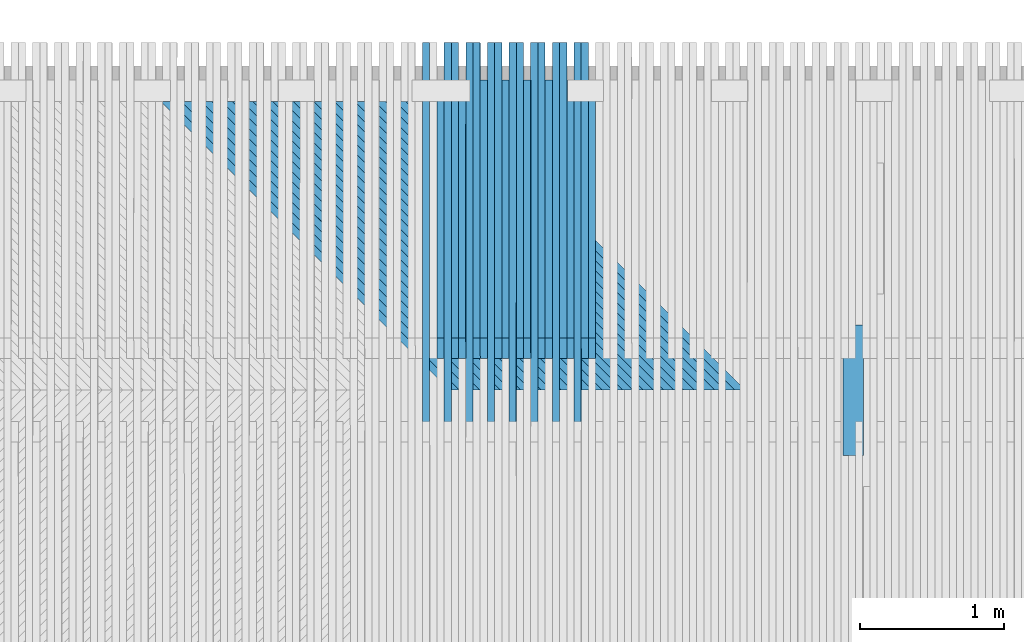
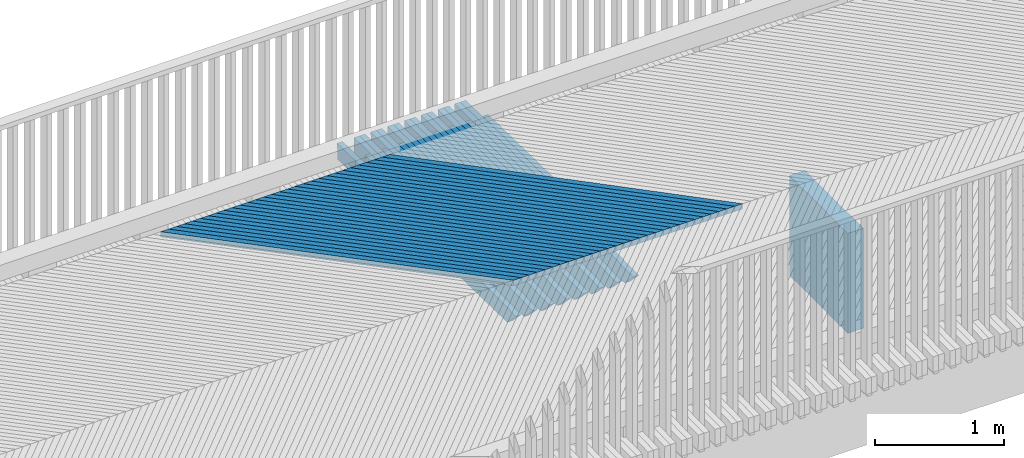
# One storey, part 26 of 47: 53 beams.
"""IFC2X3 building model written with IfcOpenShell, lengths in millimetres."""

from ifc_helpers import new_model, si_unit, frame, origin_with_axes, place, context, subcontext, project, spatial, faceted_brep, material, type_object, element, save


model = new_model("IFC2X3")

# Units and contexts
model_context = context("Model", 3, precision=1e-05, world=origin_with_axes())
body_context = subcontext(model_context, "Body", "Model", "MODEL_VIEW")
ifc_project = project(units=[si_unit("LENGTHUNIT", "METRE", prefix="MILLI"), si_unit("AREAUNIT", "SQUARE_METRE"), si_unit("VOLUMEUNIT", "CUBIC_METRE"), si_unit("MASSUNIT", "GRAM", prefix="KILO"), si_unit("TIMEUNIT", "SECOND"), si_unit("PLANEANGLEUNIT", "RADIAN"), si_unit("SOLIDANGLEUNIT", "STERADIAN"), si_unit("THERMODYNAMICTEMPERATUREUNIT", "DEGREE_CELSIUS"), si_unit("LUMINOUSINTENSITYUNIT", "LUMEN")], contexts=[model_context])

# Site, building, storey
site_placement = place(None, origin_with_axes())
site = spatial("IfcSite", under=ifc_project, at=site_placement, Name="Undefined", CompositionType="ELEMENT")
building_placement = place(site_placement, origin_with_axes())
building = spatial("IfcBuilding", under=site, at=building_placement, Name="Undefined", CompositionType="ELEMENT")
storey_placement = place(building_placement, origin_with_axes())
storey = spatial("IfcBuildingStorey", under=building, at=storey_placement, Name="Undefined", CompositionType="ELEMENT", Elevation=0.0)

# Beams
ifc_material = material(Name="TIMBER/Timber_Undefined")
beam_type_1 = type_object("IfcBeamType", Name="150*50", PredefinedType="NOTDEFINED")
beam_1_placement = place(storey_placement, frame((4899.36534565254, 64771.443807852, 3080.00459767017), z_axis=(-0.00523020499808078, 0.0199960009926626, 0.999786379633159), x_axis=(-0.000104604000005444, -0.999800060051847, 0.0199957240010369)))
element("IfcBeam", 1, at=beam_1_placement, inside=storey, type_object=beam_type_1, material=ifc_material, Name="BEAM", ObjectType="150*50", context=body_context, shape_type="Brep", body=[
    faceted_brep([(6.18456397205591e-09, -24.9999999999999, -75.0000000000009), (6.18456397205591e-09, 24.9999999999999, -75.0), (2633.00494983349, 25.0000000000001, -75.0000000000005), (2633.00495050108, -24.9999999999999, -75.0000000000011), (-6.1918399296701e-09, -24.9999999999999, 74.9999999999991), (-6.19911588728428e-09, 25.0, 75.0), (2408.42506497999, 24.9999999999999, 75.0), (2768.5924870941, 25.0, 60.5875375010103), (2768.59248707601, -25.0, 60.5875366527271), (2408.4250638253, -25.0, 74.9999999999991)], [[[0, 1, 2, 3]], [[0, 4, 5, 1]], [[2, 1, 5, 6, 7]], [[3, 2, 7, 8]], [[4, 0, 3, 8, 9]], [[5, 4, 9, 6]], [[8, 7, 6, 9]]]),
])
beam_2_placement = place(storey_placement, frame((5099.43105651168, 64771.4438078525, 3081.00054883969), z_axis=(-0.00481490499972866, 0.0199960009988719, 0.99978846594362), x_axis=(-9.62979999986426e-05, -0.999800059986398, 0.019995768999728)))
element("IfcBeam", 2, at=beam_2_placement, inside=storey, type_object=beam_type_1, material=ifc_material, Name="BEAM", ObjectType="150*50", context=body_context, shape_type="Brep", body=[
    faceted_brep([(6.18456397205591e-09, -24.9999999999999, -75.0000000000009), (-6.1918399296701e-09, -24.9999999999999, 74.9999999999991), (-6.19911588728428e-09, 25.0, 75.0), (6.18456397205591e-09, 24.9999999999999, -75.0), (2186.42645864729, 25.0, -75.0), (2186.42645915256, -25.0000000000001, -75.0), (2047.96936034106, -25.0000000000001, 75.0), (2047.96935975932, 25.0, 75.0)], [[[0, 1, 2, 3]], [[0, 3, 4, 5]], [[1, 0, 5, 6]], [[2, 1, 6, 7]], [[3, 2, 7, 4]], [[6, 5, 4, 7]]]),
])
beam_3_placement = place(storey_placement, frame((4999.38737962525, 64513.4953923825, 3085.66919807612), z_axis=(-0.00498102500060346, 0.0199960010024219, 0.999787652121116), x_axis=(-9.9620000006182e-05, -0.999800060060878, 0.0199957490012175)))
element("IfcBeam", 3, at=beam_3_placement, inside=storey, type_object=beam_type_1, material=ifc_material, Name="BEAM", ObjectType="150*50", context=body_context, shape_type="Brep", body=[
    faceted_brep([(6.18456397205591e-09, -24.9999999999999, -75.0000000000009), (-6.1918399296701e-09, -24.9999999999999, 74.9999999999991), (-6.19911588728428e-09, 25.0, 75.0), (6.18456397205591e-09, 24.9999999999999, -75.0), (1928.42646506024, 25.0, -75.0), (1928.4264649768, -24.9999999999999, -75.0), (1789.96936577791, -24.9999999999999, 75.0), (1789.96936586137, 25.0, 75.0000000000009)], [[[0, 1, 2, 3]], [[0, 3, 4, 5]], [[1, 0, 5, 6]], [[2, 1, 6, 7]], [[3, 2, 7, 4]], [[6, 5, 4, 7]]]),
])
beam_4_placement = place(storey_placement, frame((5049.39221490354, 64771.443807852, 3080.7586823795), z_axis=(-0.00498102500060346, 0.0199960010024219, 0.999787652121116), x_axis=(-9.9620000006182e-05, -0.999800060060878, 0.0199957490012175)))
element("IfcBeam", 4, at=beam_4_placement, inside=storey, type_object=beam_type_1, material=ifc_material, Name="BEAM", ObjectType="150*50", context=body_context, shape_type="Brep", body=[
    faceted_brep([(6.18456397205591e-09, -24.9999999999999, -75.0000000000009), (6.18456397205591e-09, 24.9999999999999, -75.0), (2633.00494983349, 25.0000000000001, -75.0000000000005), (2633.00495050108, -24.9999999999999, -75.0000000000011), (-6.1918399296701e-09, -24.9999999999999, 74.9999999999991), (-6.19911588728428e-09, 25.0, 75.0), (2408.42506497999, 24.9999999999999, 75.0), (2768.5924870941, 25.0, 60.5875375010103), (2768.59248707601, -25.0, 60.5875366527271), (2408.4250638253, -25.0, 74.9999999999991)], [[[0, 1, 2, 3]], [[0, 4, 5, 1]], [[2, 1, 5, 6, 7]], [[3, 2, 7, 8]], [[4, 0, 3, 8, 9]], [[5, 4, 9, 6]], [[8, 7, 6, 9]]]),
])
beam_5_placement = place(storey_placement, frame((5249.45816777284, 64771.4438078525, 3081.70477053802), z_axis=(-0.00456572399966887, 0.0199960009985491, 0.999789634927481), x_axis=(-9.1314999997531e-05, -0.999800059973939, 0.0199957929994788)))
element("IfcBeam", 5, at=beam_5_placement, inside=storey, type_object=beam_type_1, material=ifc_material, Name="BEAM", ObjectType="150*50", context=body_context, shape_type="Brep", body=[
    faceted_brep([(6.18456397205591e-09, -24.9999999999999, -75.0000000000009), (-6.1918399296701e-09, -24.9999999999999, 74.9999999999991), (-6.19911588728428e-09, 25.0, 75.0), (6.18456397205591e-09, 24.9999999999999, -75.0), (2186.42645864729, 25.0, -75.0), (2186.42645915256, -25.0000000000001, -75.0), (2047.96936034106, -25.0000000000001, 75.0), (2047.96935975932, 25.0, 75.0)], [[[0, 1, 2, 3]], [[0, 3, 4, 5]], [[1, 0, 5, 6]], [[2, 1, 6, 7]], [[3, 2, 7, 4]], [[6, 5, 4, 7]]]),
])
beam_6_placement = place(storey_placement, frame((5149.41565757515, 64513.4953923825, 3086.39835381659), z_axis=(-0.00473184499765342, 0.0199960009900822, 0.99978886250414), x_axis=(-9.46370000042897e-05, -0.999800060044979, 0.0199957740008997)))
element("IfcBeam", 6, at=beam_6_placement, inside=storey, type_object=beam_type_1, material=ifc_material, Name="BEAM", ObjectType="150*50", context=body_context, shape_type="Brep", body=[
    faceted_brep([(6.18456397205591e-09, -24.9999999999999, -75.0000000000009), (-6.1918399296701e-09, -24.9999999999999, 74.9999999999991), (-6.19911588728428e-09, 25.0, 75.0), (6.18456397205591e-09, 24.9999999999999, -75.0), (1928.42646506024, 25.0, -75.0), (1928.4264649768, -24.9999999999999, -75.0), (1789.96936577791, -24.9999999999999, 75.0), (1789.96936586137, 25.0, 75.0000000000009)], [[[0, 1, 2, 3]], [[0, 3, 4, 5]], [[1, 0, 5, 6]], [[2, 1, 6, 7]], [[3, 2, 7, 4]], [[6, 5, 4, 7]]]),
])
beam_7_placement = place(storey_placement, frame((5199.41926743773, 64771.443807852, 3081.47537541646), z_axis=(-0.00473184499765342, 0.0199960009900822, 0.99978886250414), x_axis=(-9.46370000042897e-05, -0.999800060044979, 0.0199957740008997)))
element("IfcBeam", 7, at=beam_7_placement, inside=storey, type_object=beam_type_1, material=ifc_material, Name="BEAM", ObjectType="150*50", context=body_context, shape_type="Brep", body=[
    faceted_brep([(6.18456397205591e-09, -24.9999999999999, -75.0000000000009), (6.18456397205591e-09, 24.9999999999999, -75.0), (2633.00494983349, 25.0000000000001, -75.0000000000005), (2633.00495050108, -24.9999999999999, -75.0000000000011), (-6.1918399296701e-09, -24.9999999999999, 74.9999999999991), (-6.19911588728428e-09, 25.0, 75.0), (2408.42506497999, 24.9999999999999, 75.0), (2768.5924870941, 25.0, 60.5875375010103), (2768.59248707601, -25.0, 60.5875366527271), (2408.4250638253, -25.0, 74.9999999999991)], [[[0, 1, 2, 3]], [[0, 4, 5, 1]], [[2, 1, 5, 6, 7]], [[3, 2, 7, 8]], [[4, 0, 3, 8, 9]], [[5, 4, 9, 6]], [[8, 7, 6, 9]]]),
])
beam_8_placement = place(storey_placement, frame((5399.48544988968, 64771.4438078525, 3082.37160050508), z_axis=(-0.0043165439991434, 0.0199960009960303, 0.999790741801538), x_axis=(-8.63309999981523e-05, -0.999800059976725, 0.0199958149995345)))
element("IfcBeam", 8, at=beam_8_placement, inside=storey, type_object=beam_type_1, material=ifc_material, Name="BEAM", ObjectType="150*50", context=body_context, shape_type="Brep", body=[
    faceted_brep([(6.18456397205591e-09, -24.9999999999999, -75.0000000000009), (-6.1918399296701e-09, -24.9999999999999, 74.9999999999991), (-6.19911588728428e-09, 25.0, 75.0), (6.18456397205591e-09, 24.9999999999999, -75.0), (2186.42645864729, 25.0, -75.0), (2186.42645915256, -25.0000000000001, -75.0), (2047.96936034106, -25.0000000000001, 75.0), (2047.96935975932, 25.0, 75.0)], [[[0, 1, 2, 3]], [[0, 3, 4, 5]], [[1, 0, 5, 6]], [[2, 1, 6, 7]], [[3, 2, 7, 4]], [[6, 5, 4, 7]]]),
])
beam_9_placement = place(storey_placement, frame((5299.44411259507, 64513.4953923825, 3087.09011753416), z_axis=(-0.00448266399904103, 0.0199960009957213, 0.99979001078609), x_axis=(-8.96530000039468e-05, -0.999800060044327, 0.0199957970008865)))
element("IfcBeam", 9, at=beam_9_placement, inside=storey, type_object=beam_type_1, material=ifc_material, Name="BEAM", ObjectType="150*50", context=body_context, shape_type="Brep", body=[
    faceted_brep([(6.18456397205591e-09, -24.9999999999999, -75.0000000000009), (-6.1918399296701e-09, -24.9999999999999, 74.9999999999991), (-6.19911588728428e-09, 25.0, 75.0), (6.18456397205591e-09, 24.9999999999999, -75.0), (1928.42646506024, 25.0, -75.0), (1928.4264649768, -24.9999999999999, -75.0), (1789.96936577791, -24.9999999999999, 75.0), (1789.96936586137, 25.0, 75.0000000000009)], [[[0, 1, 2, 3]], [[0, 3, 4, 5]], [[1, 0, 5, 6]], [[2, 1, 6, 7]], [[3, 2, 7, 4]], [[6, 5, 4, 7]]]),
])
beam_10_placement = place(storey_placement, frame((5349.44649393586, 64771.443807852, 3082.15467673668), z_axis=(-0.00448266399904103, 0.0199960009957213, 0.99979001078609), x_axis=(-8.96530000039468e-05, -0.999800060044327, 0.0199957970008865)))
element("IfcBeam", 10, at=beam_10_placement, inside=storey, type_object=beam_type_1, material=ifc_material, Name="BEAM", ObjectType="150*50", context=body_context, shape_type="Brep", body=[
    faceted_brep([(6.18456397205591e-09, -24.9999999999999, -75.0000000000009), (6.18456397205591e-09, 24.9999999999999, -75.0), (2633.00494983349, 25.0000000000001, -75.0000000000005), (2633.00495050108, -24.9999999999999, -75.0000000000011), (-6.1918399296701e-09, -24.9999999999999, 74.9999999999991), (-6.19911588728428e-09, 25.0, 75.0), (2408.42501428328, 25.0000000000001, 74.9999999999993), (2768.5924870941, 25.0, 60.5875375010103), (2768.59248707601, -25.0, 60.5875366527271), (2408.4250638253, -25.0, 74.9999999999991)], [[[0, 1, 2, 3]], [[0, 4, 5, 1]], [[2, 1, 5, 6, 7]], [[3, 2, 7, 8]], [[4, 0, 3, 8, 9]], [[5, 4, 9, 6]], [[8, 7, 6, 9]]]),
])
beam_11_placement = place(storey_placement, frame((5549.51289354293, 64771.4438078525, 3083.00103869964), z_axis=(-0.00406736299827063, 0.019996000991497, 0.999791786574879), x_axis=(-8.1346999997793e-05, -0.999800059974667, 0.0199958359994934)))
element("IfcBeam", 11, at=beam_11_placement, inside=storey, type_object=beam_type_1, material=ifc_material, Name="BEAM", ObjectType="150*50", context=body_context, shape_type="Brep", body=[
    faceted_brep([(6.18456397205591e-09, -24.9999999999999, -75.0000000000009), (-6.1918399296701e-09, -24.9999999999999, 74.9999999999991), (-6.19911588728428e-09, 25.0, 75.0), (6.18456397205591e-09, 24.9999999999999, -75.0), (2186.42645864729, 25.0, -75.0), (2186.42645915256, -25.0000000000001, -75.0), (2047.96936034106, -25.0000000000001, 75.0), (2047.96935975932, 25.0, 75.0)], [[[0, 1, 2, 3]], [[0, 3, 4, 5]], [[1, 0, 5, 6]], [[2, 1, 6, 7]], [[3, 2, 7, 4]], [[6, 5, 4, 7]]]),
])
beam_12_placement = place(storey_placement, frame((5449.47273536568, 64513.4953923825, 3087.74448918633), z_axis=(-0.00423348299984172, 0.019996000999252, 0.999791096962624), x_axis=(-8.46690000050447e-05, -0.999800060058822, 0.0199958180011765)))
element("IfcBeam", 12, at=beam_12_placement, inside=storey, type_object=beam_type_1, material=ifc_material, Name="BEAM", ObjectType="150*50", context=body_context, shape_type="Brep", body=[
    faceted_brep([(6.18456397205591e-09, -24.9999999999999, -75.0000000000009), (-6.1918399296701e-09, -24.9999999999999, 74.9999999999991), (-6.19911588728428e-09, 25.0, 75.0), (6.18456397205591e-09, 24.9999999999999, -75.0), (1928.42646506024, 25.0, -75.0), (1928.4264649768, -24.9999999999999, -75.0), (1789.96936577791, -24.9999999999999, 75.0), (1789.96936586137, 25.0, 75.0000000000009)], [[[0, 1, 2, 3]], [[0, 3, 4, 5]], [[1, 0, 5, 6]], [[2, 1, 6, 7]], [[3, 2, 7, 4]], [[6, 5, 4, 7]]]),
])
beam_13_placement = place(storey_placement, frame((5499.47388507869, 64771.443807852, 3082.7965862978), z_axis=(-0.00423348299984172, 0.019996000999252, 0.999791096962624), x_axis=(-8.46690000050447e-05, -0.999800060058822, 0.0199958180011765)))
element("IfcBeam", 13, at=beam_13_placement, inside=storey, type_object=beam_type_1, material=ifc_material, Name="BEAM", ObjectType="150*50", context=body_context, shape_type="Brep", body=[
    faceted_brep([(6.18456397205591e-09, -24.9999999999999, -75.0000000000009), (6.18456397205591e-09, 24.9999999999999, -75.0), (2633.00494983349, 25.0000000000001, -75.0000000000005), (2633.00495050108, -24.9999999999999, -75.0000000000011), (-6.1918399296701e-09, -24.9999999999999, 74.9999999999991), (-6.19911588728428e-09, 25.0, 75.0), (2408.42506497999, 24.9999999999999, 75.0), (2768.5924870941, 25.0, 60.5875375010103), (2768.59248707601, -25.0, 60.5875366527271), (2408.4250638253, -25.0, 74.9999999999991)], [[[0, 1, 2, 3]], [[0, 4, 5, 1]], [[2, 1, 5, 6, 7]], [[3, 2, 7, 8]], [[4, 0, 3, 8, 9]], [[5, 4, 9, 6]], [[8, 7, 6, 9]]]),
])
beam_14_placement = place(storey_placement, frame((5699.54048941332, 64771.4438078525, 3083.5930850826), z_axis=(-0.00381818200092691, 0.0199960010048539, 0.999792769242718), x_axis=(-7.63639999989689e-05, -0.99980005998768, 0.0199958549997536)))
element("IfcBeam", 14, at=beam_14_placement, inside=storey, type_object=beam_type_1, material=ifc_material, Name="BEAM", ObjectType="150*50", context=body_context, shape_type="Brep", body=[
    faceted_brep([(6.18456397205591e-09, -24.9999999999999, -75.0000000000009), (-6.1918399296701e-09, -24.9999999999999, 74.9999999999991), (-6.19911588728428e-09, 25.0, 75.0), (6.18456397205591e-09, 24.9999999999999, -75.0), (2186.42645864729, 25.0, -75.0), (2186.42645915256, -25.0000000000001, -75.0), (2047.96936034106, -25.0000000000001, 75.0), (2047.96935975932, 25.0, 75.0)], [[[0, 1, 2, 3]], [[0, 3, 4, 5]], [[1, 0, 5, 6]], [[2, 1, 6, 7]], [[3, 2, 7, 4]], [[6, 5, 4, 7]]]),
])
beam_15_placement = place(storey_placement, frame((5599.50151656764, 64513.4953923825, 3088.36146873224), z_axis=(-0.00398430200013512, 0.0199960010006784, 0.999792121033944), x_axis=(-7.96860000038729e-05, -0.999800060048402, 0.0199958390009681)))
element("IfcBeam", 15, at=beam_15_placement, inside=storey, type_object=beam_type_1, material=ifc_material, Name="BEAM", ObjectType="150*50", context=body_context, shape_type="Brep", body=[
    faceted_brep([(6.18456397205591e-09, -24.9999999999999, -75.0000000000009), (-6.1918399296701e-09, -24.9999999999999, 74.9999999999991), (-6.19911588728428e-09, 25.0, 75.0), (6.18456397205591e-09, 24.9999999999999, -75.0), (1928.42646506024, 25.0, -75.0), (1928.4264649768, -24.9999999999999, -75.0), (1789.96936577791, -24.9999999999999, 75.0), (1789.96936586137, 25.0, 75.0000000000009)], [[[0, 1, 2, 3]], [[0, 3, 4, 5]], [[1, 0, 5, 6]], [[2, 1, 6, 7]], [[3, 2, 7, 4]], [[6, 5, 4, 7]]]),
])
beam_16_placement = place(storey_placement, frame((5649.50143154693, 64771.443807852, 3083.40110406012), z_axis=(-0.00398430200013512, 0.0199960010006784, 0.999792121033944), x_axis=(-7.96860000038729e-05, -0.999800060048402, 0.0199958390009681)))
element("IfcBeam", 16, at=beam_16_placement, inside=storey, type_object=beam_type_1, material=ifc_material, Name="BEAM", ObjectType="150*50", context=body_context, shape_type="Brep", body=[
    faceted_brep([(6.18456397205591e-09, -24.9999999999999, -75.0000000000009), (6.18456397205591e-09, 24.9999999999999, -75.0), (2633.00494983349, 25.0000000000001, -75.0000000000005), (2633.00495050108, -24.9999999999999, -75.0000000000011), (-6.1918399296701e-09, -24.9999999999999, 74.9999999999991), (-6.19911588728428e-09, 25.0, 75.0), (2408.42506497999, 24.9999999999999, 75.0), (2768.5924870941, 25.0, 60.5875375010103), (2768.59248707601, -25.0, 60.5875366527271), (2408.4250638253, -25.0, 74.9999999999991)], [[[0, 1, 2, 3]], [[0, 4, 5, 1]], [[2, 1, 5, 6, 7]], [[3, 2, 7, 8]], [[4, 0, 3, 8, 9]], [[5, 4, 9, 6]], [[8, 7, 6, 9]]]),
])
beam_17_placement = place(storey_placement, frame((5849.56822818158, 64771.4438078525, 3084.14773961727), z_axis=(-0.00356899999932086, 0.0199960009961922, 0.999793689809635), x_axis=(-7.13799999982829e-05, -0.999800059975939, 0.0199958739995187)))
element("IfcBeam", 17, at=beam_17_placement, inside=storey, type_object=beam_type_1, material=ifc_material, Name="BEAM", ObjectType="150*50", context=body_context, shape_type="Brep", body=[
    faceted_brep([(6.18456397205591e-09, -24.9999999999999, -75.0000000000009), (-6.1918399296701e-09, -24.9999999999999, 74.9999999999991), (-6.19911588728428e-09, 25.0, 75.0), (6.18456397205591e-09, 24.9999999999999, -75.0), (2186.42645864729, 25.0, -75.0), (2186.42645915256, -25.0000000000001, -75.0), (2047.96936034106, -25.0000000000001, 75.0), (2047.96935975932, 25.0, 75.0)], [[[0, 1, 2, 3]], [[0, 3, 4, 5]], [[1, 0, 5, 6]], [[2, 1, 6, 7]], [[3, 2, 7, 4]], [[6, 5, 4, 7]]]),
])
beam_18_placement = place(storey_placement, frame((5749.5304468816, 64513.4953923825, 3088.9410561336), z_axis=(-0.0037351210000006, 0.0199960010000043, 0.999793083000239), x_axis=(-7.47020000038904e-05, -0.999800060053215, 0.0199958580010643)))
element("IfcBeam", 18, at=beam_18_placement, inside=storey, type_object=beam_type_1, material=ifc_material, Name="BEAM", ObjectType="150*50", context=body_context, shape_type="Brep", body=[
    faceted_brep([(6.18456397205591e-09, -24.9999999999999, -75.0000000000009), (-6.1918399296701e-09, -24.9999999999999, 74.9999999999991), (-6.19911588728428e-09, 25.0, 75.0), (6.18456397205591e-09, 24.9999999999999, -75.0), (1928.42646506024, 25.0, -75.0), (1928.4264649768, -24.9999999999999, -75.0), (1789.96936577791, -24.9999999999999, 75.0), (1789.96936586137, 25.0, 75.0000000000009)], [[[0, 1, 2, 3]], [[0, 3, 4, 5]], [[1, 0, 5, 6]], [[2, 1, 6, 7]], [[3, 2, 7, 4]], [[6, 5, 4, 7]]]),
])
beam_19_placement = place(storey_placement, frame((5799.52912402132, 64771.443807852, 3083.96822998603), z_axis=(-0.0037351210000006, 0.0199960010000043, 0.999793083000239), x_axis=(-7.47020000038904e-05, -0.999800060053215, 0.0199958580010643)))
element("IfcBeam", 19, at=beam_19_placement, inside=storey, type_object=beam_type_1, material=ifc_material, Name="BEAM", ObjectType="150*50", context=body_context, shape_type="Brep", body=[
    faceted_brep([(6.18456397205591e-09, -24.9999999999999, -75.0000000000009), (6.18456397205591e-09, 24.9999999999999, -75.0), (2633.00494983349, 25.0000000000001, -75.0000000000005), (2633.00495050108, -24.9999999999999, -75.0000000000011), (-6.1918399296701e-09, -24.9999999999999, 74.9999999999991), (-6.19911588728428e-09, 25.0, 75.0), (2408.42506497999, 24.9999999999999, 75.0), (2768.5924870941, 25.0, 60.5875375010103), (2768.59248707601, -25.0, 60.5875366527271), (2408.4250638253, -25.0, 74.9999999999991)], [[[0, 1, 2, 3]], [[0, 4, 5, 1]], [[2, 1, 5, 6, 7]], [[3, 2, 7, 8]], [[4, 0, 3, 8, 9]], [[5, 4, 9, 6]], [[8, 7, 6, 9]]]),
])
beam_20_placement = place(storey_placement, frame((5999.59610052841, 64771.4438078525, 3084.66500226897), z_axis=(-0.0033198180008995, 0.0199960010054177, 0.99979454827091), x_axis=(-6.63969999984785e-05, -0.99980005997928, 0.0199958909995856)))
element("IfcBeam", 20, at=beam_20_placement, inside=storey, type_object=beam_type_1, material=ifc_material, Name="BEAM", ObjectType="150*50", context=body_context, shape_type="Brep", body=[
    faceted_brep([(6.18456397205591e-09, -24.9999999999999, -75.0000000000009), (-6.1918399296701e-09, -24.9999999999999, 74.9999999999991), (-6.19911588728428e-09, 25.0, 75.0), (6.18456397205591e-09, 24.9999999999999, -75.0), (2186.42645864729, 25.0, -75.0), (2186.42645915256, -25.0000000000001, -75.0), (2047.96936034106, -25.0000000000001, 75.0), (2047.96935975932, 25.0, 75.0)], [[[0, 1, 2, 3]], [[0, 3, 4, 5]], [[1, 0, 5, 6]], [[2, 1, 6, 7]], [[3, 2, 7, 4]], [[6, 5, 4, 7]]]),
])
beam_21_placement = place(storey_placement, frame((5899.55951698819, 64513.4953923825, 3089.48325135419), z_axis=(-0.00348593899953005, 0.019996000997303, 0.999793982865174), x_axis=(-6.97180000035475e-05, -0.999800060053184, 0.0199958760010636)))
element("IfcBeam", 21, at=beam_21_placement, inside=storey, type_object=beam_type_1, material=ifc_material, Name="BEAM", ObjectType="150*50", context=body_context, shape_type="Brep", body=[
    faceted_brep([(6.18456397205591e-09, -24.9999999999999, -75.0000000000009), (-6.1918399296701e-09, -24.9999999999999, 74.9999999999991), (-6.19911588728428e-09, 25.0, 75.0), (6.18456397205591e-09, 24.9999999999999, -75.0), (1928.42646506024, 25.0, -75.0), (1928.4264649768, -24.9999999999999, -75.0), (1789.96936577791, -24.9999999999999, 75.0), (1789.96936586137, 25.0, 75.0000000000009)], [[[0, 1, 2, 3]], [[0, 3, 4, 5]], [[1, 0, 5, 6]], [[2, 1, 6, 7]], [[3, 2, 7, 4]], [[6, 5, 4, 7]]]),
])
beam_22_placement = place(storey_placement, frame((5949.55695318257, 64771.443807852, 3084.49796404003), z_axis=(-0.00348593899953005, 0.019996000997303, 0.999793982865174), x_axis=(-6.97180000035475e-05, -0.999800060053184, 0.0199958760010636)))
element("IfcBeam", 22, at=beam_22_placement, inside=storey, type_object=beam_type_1, material=ifc_material, Name="BEAM", ObjectType="150*50", context=body_context, shape_type="Brep", body=[
    faceted_brep([(6.18456397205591e-09, -24.9999999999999, -75.0000000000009), (6.18456397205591e-09, 24.9999999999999, -75.0), (2633.00494983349, 25.0000000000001, -75.0000000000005), (2633.00495050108, -24.9999999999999, -75.0000000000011), (-6.1918399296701e-09, -24.9999999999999, 74.9999999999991), (-6.19911588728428e-09, 25.0, 75.0), (2408.42506497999, 24.9999999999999, 75.0), (2768.5924870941, 25.0, 60.5875375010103), (2768.59248707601, -25.0, 60.5875366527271), (2408.4250638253, -25.0, 74.9999999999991)], [[[0, 1, 2, 3]], [[0, 4, 5, 1]], [[2, 1, 5, 6, 7]], [[3, 2, 7, 8]], [[4, 0, 3, 8, 9]], [[5, 4, 9, 6]], [[8, 7, 6, 9]]]),
])
beam_23_placement = place(storey_placement, frame((6049.58871756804, 64513.4953923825, 3089.98805436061), z_axis=(-0.00323675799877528, 0.0199960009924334, 0.999794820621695), x_axis=(-6.47350000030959e-05, -0.999800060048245, 0.0199958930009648)))
element("IfcBeam", 23, at=beam_23_placement, inside=storey, type_object=beam_type_1, material=ifc_material, Name="BEAM", ObjectType="150*50", context=body_context, shape_type="Brep", body=[
    faceted_brep([(6.18456397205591e-09, -24.9999999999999, -75.0000000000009), (-6.1918399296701e-09, -24.9999999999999, 74.9999999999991), (-6.19911588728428e-09, 25.0, 75.0), (6.18456397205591e-09, 24.9999999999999, -75.0), (1928.42646506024, 25.0, -75.0), (1928.4264649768, -24.9999999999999, -75.0), (1789.96936577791, -24.9999999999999, 75.0), (1789.96936586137, 25.0, 75.0000000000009)], [[[0, 1, 2, 3]], [[0, 3, 4, 5]], [[1, 0, 5, 6]], [[2, 1, 6, 7]], [[3, 2, 7, 4]], [[6, 5, 4, 7]]]),
])
beam_type_2 = type_object("IfcBeamType", Name="945*140", PredefinedType="NOTDEFINED")
beam_24_placement = place(storey_placement, frame((7860.0, 62817.5, 2542.6479002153), z_axis=(0.0, 0.0, 1.0), x_axis=(0.0, -1.0, 0.0)))
element("IfcBeam", 24, at=beam_24_placement, inside=storey, type_object=beam_type_2, material=ifc_material, Name="PALKKI", ObjectType="945*140", context=body_context, shape_type="Brep", body=[
    faceted_brep([(0.0, 70.0, -472.5), (0.0, 70.0, 472.5), (905.0, 70.0, 472.5), (905.0, 70.0, -472.5), (0.0, -70.0, 472.5), (905.0, -70.0, 472.5), (0.0, -70.0, -472.5), (905.0, -70.0, -472.5)], [[[0, 1, 2, 3]], [[1, 4, 5, 2]], [[4, 6, 7, 5]], [[6, 0, 3, 7]], [[5, 7, 3, 2]], [[6, 4, 1, 0]]]),
])
beam_type_3 = type_object("IfcBeamType", Name="50*50", PredefinedType="NOTDEFINED")
for number, where, z_axis, x_axis, name in (
    (25, (7074.94341888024, 62365.4998996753, 3235.4114504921), (0.707133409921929, 0.706981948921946, -0.0117840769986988), (-0.707072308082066, 0.706948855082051, -0.0164944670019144), "BEAM"),
    (26, (7004.2192754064, 62365.4998996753, 3235.29863908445), (0.707134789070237, 0.706981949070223, -0.0117010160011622), (-0.707070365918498, 0.706948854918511, -0.0165775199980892), "BEAM"),
    (27, (6933.49514567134, 62365.4998996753, 3235.17752037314), (0.707136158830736, 0.706981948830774, -0.0116179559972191), (-0.707068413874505, 0.706948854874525, -0.016660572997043), "BEAM"),
    (28, (6862.77103065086, 62365.4998996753, 3235.04809435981), (0.707137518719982, 0.706981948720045, -0.0115348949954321), (-0.707066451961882, 0.706948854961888, -0.0167436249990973), "BEAM"),
    (29, (6792.04693132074, 62365.4998996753, 3234.91036104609), (0.707138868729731, 0.706981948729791, -0.0114518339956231), (-0.70706448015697, 0.706948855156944, -0.0168266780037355), "BEAM"),
    (30, (6721.32284865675, 62365.4998996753, 3234.76432043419), (0.707140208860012, 0.706981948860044, -0.0113687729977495), (-0.707062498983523, 0.706948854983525, -0.016909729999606), "BEAM"),
    (31, (6650.59878363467, 62365.4998996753, 3234.60997252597), (0.707141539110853, 0.706981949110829, -0.011285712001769), (-0.707060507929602, 0.706948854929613, -0.0169927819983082), "BEAM"),
    (32, (6579.8747372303, 62365.4998996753, 3234.44731732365), (0.707142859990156, 0.706981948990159, -0.0112026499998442), (-0.707058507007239, 0.706948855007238, -0.0170758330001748), "BEAM"),
    (33, (6509.1507104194, 62365.4998996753, 3234.27635482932), (0.707144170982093, 0.706981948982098, -0.0111195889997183), (-0.707056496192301, 0.706948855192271, -0.0171588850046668), "BEAM"),
    (34, (6438.42670417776, 62365.4998996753, 3234.09708504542), (0.707145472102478, 0.706981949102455, -0.0110365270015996), (-0.707054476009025, 0.706948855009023, -0.0172419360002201), "BEAM"),
    (35, (6367.70271948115, 62365.4998996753, 3233.9095079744), (0.707146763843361, 0.706981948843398, -0.0109534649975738), (-0.707052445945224, 0.706948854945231, -0.0173249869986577), "BEAM"),
    (36, (6296.97875730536, 62365.4998996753, 3233.71362361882), (0.707148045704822, 0.706981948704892, -0.0108704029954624), (-0.707050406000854, 0.706948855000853, -0.0174080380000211), "BEAM"),
    (37, (6226.25481862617, 62365.4998996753, 3233.5094319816), (0.70714931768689, 0.706981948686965, -0.0107873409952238), (-0.707048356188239, 0.706948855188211, -0.0174910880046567), "BEAM"),
    (38, (6155.53090441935, 62365.4998996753, 3233.29693306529), (0.707150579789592, 0.706981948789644, -0.0107042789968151), (-0.707046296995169, 0.706948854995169, -0.01757413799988), "BEAM"),
    (39, (6084.80701566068, 62365.4998996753, 3233.07612687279), (0.707151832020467, 0.706981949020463, -0.0106212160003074), (-0.70704422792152, 0.706948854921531, -0.0176571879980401), "BEAM"),
    (40, (6014.08315332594, 62365.4998996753, 3232.84701340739), (0.707153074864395, 0.706981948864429, -0.010538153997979), (-0.707042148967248, 0.706948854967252, -0.0177402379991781), "BEAM"),
    (41, (5943.35931839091, 62365.4998996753, 3232.6095926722), (0.707154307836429, 0.70698194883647, -0.0104550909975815), (-0.707040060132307, 0.706948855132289, -0.0178232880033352), "BEAM"),
    (42, (5872.63551183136, 62365.4998996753, 3232.36386467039), (0.707155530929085, 0.706981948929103, -0.0103720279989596), (-0.707037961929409, 0.706948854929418, -0.0179063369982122), "BEAM"),
    (43, (5801.91173462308, 62365.4998996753, 3232.10982940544), (0.707156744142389, 0.706981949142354, -0.0102889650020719), (-0.707035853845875, 0.706948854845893, -0.0179893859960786), "BEAM"),
    (44, (5731.18798774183, 62365.4998996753, 3231.84748688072), (0.707157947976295, 0.706981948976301, -0.010205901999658), (-0.707033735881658, 0.706948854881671, -0.0180724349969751), "BEAM"),
    (45, (5660.46427216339, 62365.4998996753, 3231.57683709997), (0.707159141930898, 0.706981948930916, -0.0101228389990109), (-0.707031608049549, 0.706948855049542, -0.0181554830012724), "BEAM"),
    (46, (5589.74058886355, 62365.4998996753, 3231.29788006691), (0.707160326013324, 0.706981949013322, -0.0100397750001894), (-0.707029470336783, 0.706948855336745, -0.0182385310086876), "BEAM"),
    (47, (5519.01693881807, 62365.4998996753, 3231.01061578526), (0.707161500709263, 0.706981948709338, -0.00995671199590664), (-0.707027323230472, 0.706948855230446, -0.0183215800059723), "BEAM"),
    (48, (5448.29332300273, 62365.4998996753, 3230.71504425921), (0.707162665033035, 0.706981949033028, -0.00987364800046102), (-0.707025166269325, 0.706948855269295, -0.0184046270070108), "BEAM"),
    (49, (5377.5697423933, 62365.4998996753, 3230.41116549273), (0.707163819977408, 0.706981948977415, -0.00979058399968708), (-0.707022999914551, 0.706948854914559, -0.0184876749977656), "BEAM"),
    (50, (5306.84619796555, 62365.4998996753, 3230.09897948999), (0.707164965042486, 0.706981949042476, -0.00970752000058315), (-0.707020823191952, 0.706948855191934, -0.0185707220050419), "BEAM"),
    (51, (5236.12269069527, 62365.4998996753, 3229.77848625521), (0.707166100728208, 0.70698194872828, -0.00962445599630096), (-0.707018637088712, 0.706948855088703, -0.0186537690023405), "BEAM"),
    (52, (5165.39922155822, 62365.4998996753, 3229.44968579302), (0.707167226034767, 0.706981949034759, -0.00954139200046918), (-0.707016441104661, 0.706948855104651, -0.0187368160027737), "BEAM"),
    (53, (5094.67579153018, 62365.4998996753, 3229.11257810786), (0.707168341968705, 0.706981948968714, -0.00945832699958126), (-0.707014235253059, 0.706948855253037, -0.0188198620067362), "BEAM"),
):
    element("IfcBeam", number, at=place(storey_placement, frame(where, z_axis=z_axis, x_axis=x_axis)), inside=storey, type_object=beam_type_3, material=ifc_material, Name=name, ObjectType="50*50", context=body_context, shape_type="Brep", body=[
        faceted_brep([(23.5869248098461, 25.0, -25.0), (-26.4154158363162, 25.0, 25.0), (2802.92643296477, 25.0000000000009, 25.0), (2852.92877373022, 25.0000000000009, -25.0), (-25.0011704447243, -25.0, 24.9999999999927), (2804.34067830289, -24.9999999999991, 25.0), (25.0011701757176, -25.0, -24.9999999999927), (2854.34301907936, -24.9999999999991, -25.0)], [[[0, 1, 2, 3]], [[1, 4, 5, 2]], [[4, 6, 7, 5]], [[6, 0, 3, 7]], [[5, 7, 3, 2]], [[6, 4, 1, 0]]]),
    ])

save(model, "model.ifc")
